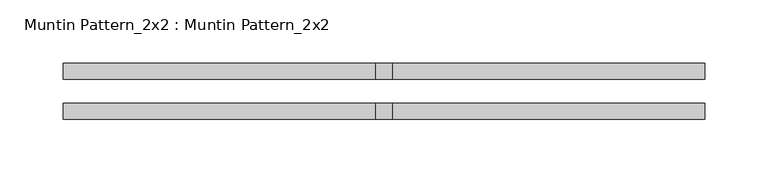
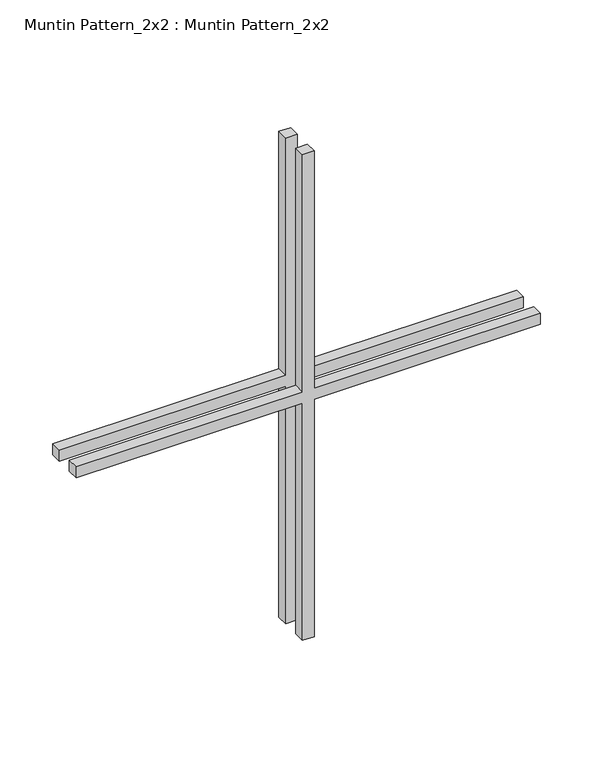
"""IFC4 building model written with IfcOpenShell, lengths in millimetres: proxy geometry, Muntin Pattern_2x2 : Muntin Pattern_2x2."""

from ifc_helpers import new_model, si_unit, frame, origin, place, context, project, spatial, polyline, outline, extrude, source, transform, mapped, element, save


def muntin_pattern_2x2_muntin_pattern_2x2_b7d8ecc0(model_context):
    return source(origin(), model_context, "Body", "SweptSolid", [
        extrude(outline(polyline([(287.3375, -6.35), (287.3375, -254.0), (274.6375, -254.0), (274.6375, -6.35), (0.0, -6.35), (0.0, 6.35), (274.6375, 6.35), (274.6375, 254.0), (287.3375, 254.0), (287.3375, 6.35), (561.975, 6.35), (561.975, -6.35), (287.3375, -6.35)])), frame((0.0, 9.525, 0.0), z_axis=(0.0, 1.0, 0.0), x_axis=(0.0, 0.0, 1.0)), (0.0, 0.0, 1.0), 12.7),
        extrude(outline(polyline([(287.3375, -6.35), (287.3375, -254.0), (274.6375, -254.0), (274.6375, -6.35), (0.0, -6.35), (0.0, 6.35), (274.6375, 6.35), (274.6375, 254.0), (287.3375, 254.0), (287.3375, 6.35), (561.975, 6.35), (561.975, -6.35), (287.3375, -6.35)])), frame((0.0, -22.225, 0.0), z_axis=(0.0, 1.0, 0.0), x_axis=(0.0, 0.0, 1.0)), (0.0, 0.0, 1.0), 12.7),
    ])


if __name__ == "__main__":
    model = new_model("IFC4")
    model_context = context("Model", 3, world=origin())
    ifc_project = project(units=[si_unit("LENGTHUNIT", "METRE", prefix="MILLI")], contexts=[model_context])
    site = spatial("IfcSite", under=ifc_project)
    building = spatial("IfcBuilding", under=site)
    placement = place(None, origin())
    muntin_pattern_2x2_muntin_pattern_2x2_shape = muntin_pattern_2x2_muntin_pattern_2x2_b7d8ecc0(model_context)
    element("IfcBuildingElementProxy", 1, Name="Muntin Pattern_2x2 : Muntin Pattern_2x2", ObjectType="Muntin Pattern_2x2 : Muntin Pattern_2x2", at=placement, inside=building, context=model_context, shape_type="MappedRepresentation", body=[
        mapped(muntin_pattern_2x2_muntin_pattern_2x2_shape, transform((0.0, 0.0, 0.0), x_axis=(1.0, 0.0, 0.0), y_axis=(0.0, 1.0, 0.0), z_axis=(0.0, 0.0, 1.0))),
    ])
    save(model, "model.ifc")
